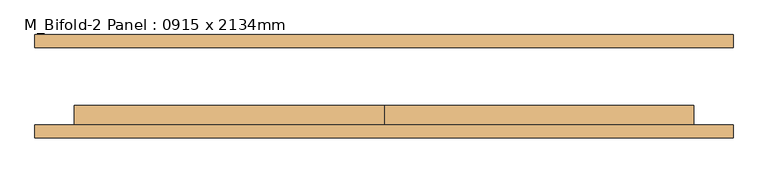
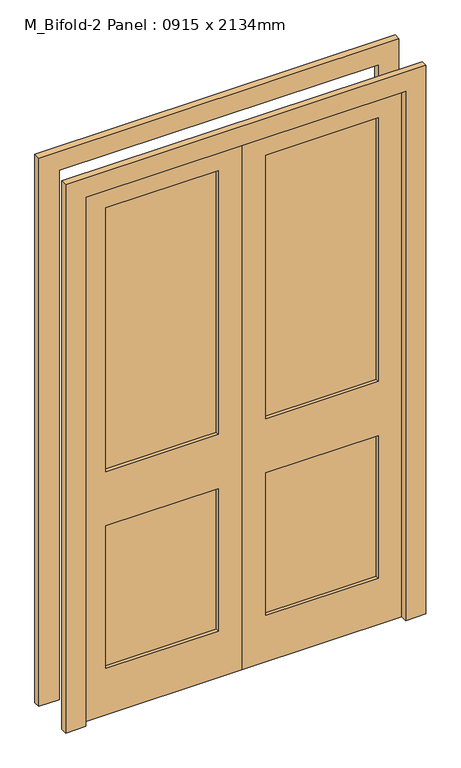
"""IFC4 building model written with IfcOpenShell, lengths in millimetres: door geometry, M_Bifold-2 Panel : 0915 x 2134mm."""

from ifc_helpers import new_model, si_unit, frame, origin, place, context, project, spatial, polyline, outline, extrude, source, transform, mapped, element, save


def m_bifold_2_panel_0915_x_2134mm_5295bc24(model_context):
    return source(origin(), model_context, "Body", "SweptSolid", [
        extrude(outline(polyline([(2100.0, 0.0), (2100.0, -600.0), (0.0, -600.0), (0.0, 0.0), (2100.0, 0.0)]), holes=[polyline([(2011.1, -88.9), (965.11872, -88.9), (965.11872, -511.1), (2011.1, -511.1), (2011.1, -88.9)]), polyline([(749.3, -88.9), (184.15, -88.9), (184.15, -511.1), (749.3, -511.1), (749.3, -88.9)])]), frame((0.0, -75.0, 0.0), z_axis=(0.0, 1.0, 0.0), x_axis=(0.0, 0.0, 1.0)), (0.0, 0.0, 1.0), 38.1),
        extrude(outline(polyline([(-88.9, -49.6), (-88.9, -62.3), (-511.1, -62.3), (-511.1, -49.6), (-88.9, -49.6)])), frame((0.0, 0.0, 965.11872), z_axis=(0.0, 0.0, 1.0), x_axis=(1.0, 0.0, 0.0)), (0.0, 0.0, 1.0), 1045.98128),
        extrude(outline(polyline([(-88.9, -49.6), (-88.9, -62.3), (-511.1, -62.3), (-511.1, -49.6), (-88.9, -49.6)])), frame((0.0, 0.0, 184.15), z_axis=(0.0, 0.0, 1.0), x_axis=(1.0, 0.0, 0.0)), (0.0, 0.0, 1.0), 565.15),
        extrude(outline(polyline([(511.1, -49.6), (511.1, -62.3), (88.9, -62.3), (88.9, -49.6), (511.1, -49.6)])), frame((0.0, 0.0, 965.11872), z_axis=(0.0, 0.0, 1.0), x_axis=(1.0, 0.0, 0.0)), (0.0, 0.0, 1.0), 1045.98128),
        extrude(outline(polyline([(511.1, -49.6), (511.1, -62.3), (88.9, -62.3), (88.9, -49.6), (511.1, -49.6)])), frame((0.0, 0.0, 184.15), z_axis=(0.0, 0.0, 1.0), x_axis=(1.0, 0.0, 0.0)), (0.0, 0.0, 1.0), 565.15),
        extrude(outline(polyline([(2176.0, -676.0), (0.0, -676.0), (0.0, -600.0), (2100.0, -600.0), (2100.0, 600.0), (0.0, 600.0), (0.0, 676.0), (2176.0, 676.0), (2176.0, -676.0)])), frame((0.0, -100.0, 0.0), z_axis=(0.0, 1.0, 0.0), x_axis=(0.0, 0.0, 1.0)), (0.0, 0.0, 1.0), 25.0),
        extrude(outline(polyline([(2176.0, 676.0), (2176.0, -676.0), (0.0, -676.0), (0.0, -600.0), (2100.0, -600.0), (2100.0, 600.0), (0.0, 600.0), (0.0, 676.0), (2176.0, 676.0)])), frame((0.0, 75.0, 0.0), z_axis=(0.0, 1.0, 0.0), x_axis=(0.0, 0.0, 1.0)), (0.0, 0.0, 1.0), 25.0),
        extrude(outline(polyline([(2100.0, 600.0), (2100.0, 0.0), (0.0, 0.0), (0.0, 600.0), (2100.0, 600.0)]), holes=[polyline([(2011.1, 88.9), (2011.1, 511.1), (965.11872, 511.1), (965.11872, 88.9), (2011.1, 88.9)]), polyline([(749.3, 88.9), (749.3, 511.1), (184.15, 511.1), (184.15, 88.9), (749.3, 88.9)])]), frame((0.0, -75.0, 0.0), z_axis=(0.0, 1.0, 0.0), x_axis=(0.0, 0.0, 1.0)), (0.0, 0.0, 1.0), 38.1),
    ])


if __name__ == "__main__":
    model = new_model("IFC4")
    model_context = context("Model", 3, world=origin())
    ifc_project = project(units=[si_unit("LENGTHUNIT", "METRE", prefix="MILLI")], contexts=[model_context])
    site = spatial("IfcSite", under=ifc_project)
    building = spatial("IfcBuilding", under=site)
    placement = place(None, origin())
    m_bifold_2_panel_0915_x_2134mm_shape = m_bifold_2_panel_0915_x_2134mm_5295bc24(model_context)
    element("IfcDoor", 1, ObjectType="M_Bifold-2 Panel : 0915 x 2134mm", at=placement, inside=building, context=model_context, shape_type="MappedRepresentation", body=[
        mapped(m_bifold_2_panel_0915_x_2134mm_shape, transform((0.0, 0.0, 0.0), x_axis=(1.0, 0.0, 0.0), y_axis=(0.0, 1.0, 0.0), z_axis=(0.0, 0.0, 1.0))),
    ])
    save(model, "model.ifc")
